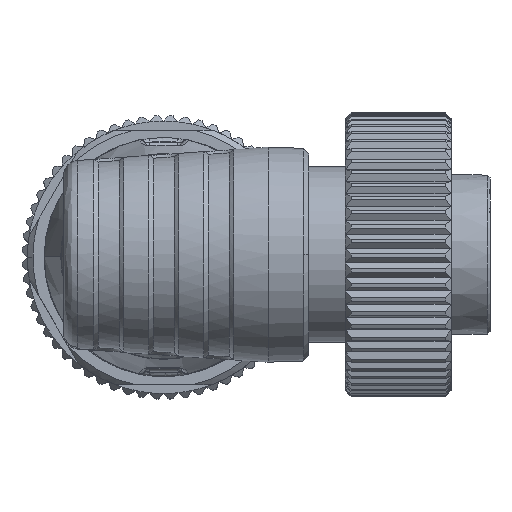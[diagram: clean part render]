
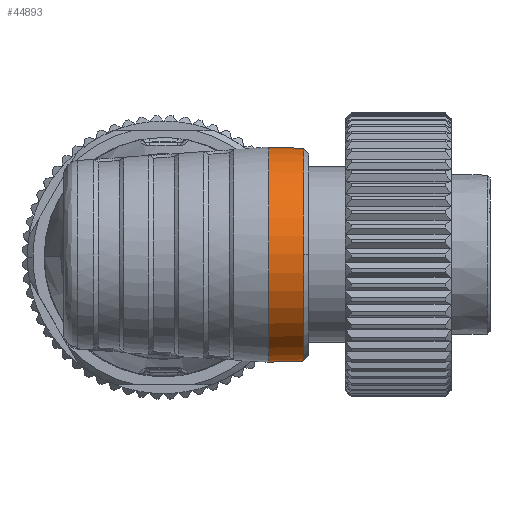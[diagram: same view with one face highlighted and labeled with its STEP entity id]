
A CAD part, top view. The second image highlights one B-rep face of the part: STEP entity #44893.
In plain terms, the highlighted conical face has half-angle 2 degrees and reference radius 9.733 mm.
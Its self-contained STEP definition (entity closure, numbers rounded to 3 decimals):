
#1442 = ORIENTED_EDGE ( 'NONE', *, *, #78611, .T. ) ;
#1977 = VERTEX_POINT ( 'NONE', #12744 ) ;
#5649 = VECTOR ( 'NONE', #17016, 1000. ) ;
#6356 = EDGE_CURVE ( 'NONE', #38803, #64186, #66325, .T. ) ;
#9701 = CARTESIAN_POINT ( 'NONE',  ( 7.796, 0., 151.85 ) ) ;
#12744 = CARTESIAN_POINT ( 'NONE',  ( 12.6, 0., 161.415 ) ) ;
#12853 = AXIS2_PLACEMENT_3D ( 'NONE', #76035, #49343, #58675 ) ;
#13975 = VECTOR ( 'NONE', #23765, 1000. ) ;
#14371 = CONICAL_SURFACE ( 'NONE', #75485, 9.733, 0.035 ) ;
#15395 = DIRECTION ( 'NONE',  ( 0., -1., 0. ) ) ;
#17016 = DIRECTION ( 'NONE',  ( -0.999, -0.035, 0. ) ) ;
#18903 = CARTESIAN_POINT ( 'NONE',  ( 9.45, 0., 151.85 ) ) ;
#20618 = AXIS2_PLACEMENT_3D ( 'NONE', #59241, #78102, #53860 ) ;
#21823 = DIRECTION ( 'NONE',  ( -1., 0., 0. ) ) ;
#22492 = EDGE_CURVE ( 'NONE', #64186, #79417, #45478, .T. ) ;
#23053 = CIRCLE ( 'NONE', #12853, 9.565 ) ;
#23385 = CARTESIAN_POINT ( 'NONE',  ( 9.45, 9.675, 151.85 ) ) ;
#23765 = DIRECTION ( 'NONE',  ( -0.999, 0.035, 0. ) ) ;
#24830 = DIRECTION ( 'NONE',  ( 0., 1., 0. ) ) ;
#30059 = CARTESIAN_POINT ( 'NONE',  ( 9.45, -9.675, 151.85 ) ) ;
#38803 = VERTEX_POINT ( 'NONE', #63462 ) ;
#42039 = CARTESIAN_POINT ( 'NONE',  ( 7.796, 9.733, 151.85 ) ) ;
#42853 = DIRECTION ( 'NONE',  ( -1., 0., 0. ) ) ;
#43009 = CIRCLE ( 'NONE', #20618, 9.565 ) ;
#44893 = ADVANCED_FACE ( 'NONE', ( #71182 ), #14371, .T. ) ;
#45478 = CIRCLE ( 'NONE', #77760, 9.675 ) ;
#49343 = DIRECTION ( 'NONE',  ( -1., 0., 0. ) ) ;
#53860 = DIRECTION ( 'NONE',  ( 0., -1., 0. ) ) ;
#55996 = ORIENTED_EDGE ( 'NONE', *, *, #22492, .F. ) ;
#56765 = EDGE_CURVE ( 'NONE', #76481, #79417, #68870, .T. ) ;
#57438 = ORIENTED_EDGE ( 'NONE', *, *, #56765, .T. ) ;
#58675 = DIRECTION ( 'NONE',  ( 0., 0., 1. ) ) ;
#59241 = CARTESIAN_POINT ( 'NONE',  ( 12.6, 0., 151.85 ) ) ;
#59640 = EDGE_LOOP ( 'NONE', ( #1442, #57438, #55996, #62283, #73793 ) ) ;
#62283 = ORIENTED_EDGE ( 'NONE', *, *, #6356, .F. ) ;
#63163 = CARTESIAN_POINT ( 'NONE',  ( 12.6, 9.565, 151.85 ) ) ;
#63462 = CARTESIAN_POINT ( 'NONE',  ( 12.6, -9.565, 151.85 ) ) ;
#64186 = VERTEX_POINT ( 'NONE', #30059 ) ;
#65365 = EDGE_CURVE ( 'NONE', #38803, #1977, #23053, .T. ) ;
#66325 = LINE ( 'NONE', #72406, #5649 ) ;
#68870 = LINE ( 'NONE', #42039, #13975 ) ;
#71182 = FACE_OUTER_BOUND ( 'NONE', #59640, .T. ) ;
#72406 = CARTESIAN_POINT ( 'NONE',  ( 7.796, -9.733, 151.85 ) ) ;
#73793 = ORIENTED_EDGE ( 'NONE', *, *, #65365, .T. ) ;
#75485 = AXIS2_PLACEMENT_3D ( 'NONE', #9701, #21823, #15395 ) ;
#76035 = CARTESIAN_POINT ( 'NONE',  ( 12.6, 0., 151.85 ) ) ;
#76481 = VERTEX_POINT ( 'NONE', #63163 ) ;
#77760 = AXIS2_PLACEMENT_3D ( 'NONE', #18903, #42853, #24830 ) ;
#78102 = DIRECTION ( 'NONE',  ( -1., 0., 0. ) ) ;
#78611 = EDGE_CURVE ( 'NONE', #1977, #76481, #43009, .T. ) ;
#79417 = VERTEX_POINT ( 'NONE', #23385 ) ;
